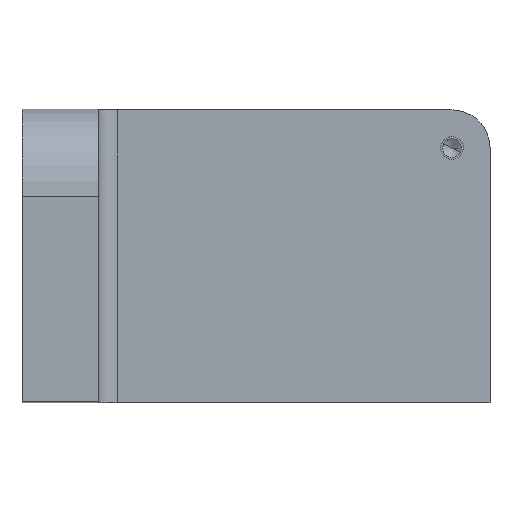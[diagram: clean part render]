
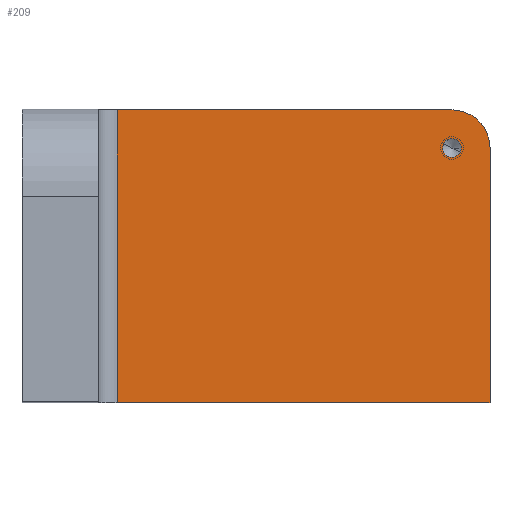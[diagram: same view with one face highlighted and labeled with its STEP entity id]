
A CAD part, top view. The second image highlights one B-rep face of the part: STEP entity #209.
In plain terms, the highlighted planar face has unit normal (0, 0, 1).
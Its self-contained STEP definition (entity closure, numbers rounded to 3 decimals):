
#144=CARTESIAN_POINT('Axis2P3D Location',(0.,0.,20.)) ;
#149=CARTESIAN_POINT('Line Origine',(74.,0.,20.)) ;
#153=CARTESIAN_POINT('Vertex',(25.,0.,20.)) ;
#155=CARTESIAN_POINT('Vertex',(123.,0.,20.)) ;
#158=CARTESIAN_POINT('Line Origine',(123.,33.5,20.)) ;
#162=CARTESIAN_POINT('Vertex',(123.,67.,20.)) ;
#165=CARTESIAN_POINT('Axis2P3D Location',(113.,67.,20.)) ;
#169=CARTESIAN_POINT('Vertex',(113.,77.,20.)) ;
#172=CARTESIAN_POINT('Line Origine',(69.,77.,20.)) ;
#176=CARTESIAN_POINT('Vertex',(25.,77.,20.)) ;
#179=CARTESIAN_POINT('Line Origine',(25.,38.5,20.)) ;
#191=CARTESIAN_POINT('Axis2P3D Location',(113.,67.,20.)) ;
#195=CARTESIAN_POINT('Vertex',(110.842,68.179,20.)) ;
#197=CARTESIAN_POINT('Vertex',(115.158,65.821,20.)) ;
#200=CARTESIAN_POINT('Axis2P3D Location',(113.,67.,20.)) ;
#145=DIRECTION('Axis2P3D Direction',(0.,0.,1.)) ;
#146=DIRECTION('Axis2P3D XDirection',(1.,0.,0.)) ;
#150=DIRECTION('Vector Direction',(1.,0.,0.)) ;
#159=DIRECTION('Vector Direction',(0.,1.,0.)) ;
#166=DIRECTION('Axis2P3D Direction',(0.,0.,1.)) ;
#173=DIRECTION('Vector Direction',(-1.,0.,0.)) ;
#180=DIRECTION('Vector Direction',(0.,-1.,0.)) ;
#192=DIRECTION('Axis2P3D Direction',(0.,0.,1.)) ;
#201=DIRECTION('Axis2P3D Direction',(0.,0.,1.)) ;
#147=AXIS2_PLACEMENT_3D('Plane Axis2P3D',#144,#145,#146) ;
#167=AXIS2_PLACEMENT_3D('Circle Axis2P3D',#165,#166,$) ;
#193=AXIS2_PLACEMENT_3D('Circle Axis2P3D',#191,#192,$) ;
#202=AXIS2_PLACEMENT_3D('Circle Axis2P3D',#200,#201,$) ;
#185=ORIENTED_EDGE('',*,*,#157,.T.) ;
#186=ORIENTED_EDGE('',*,*,#164,.T.) ;
#187=ORIENTED_EDGE('',*,*,#171,.T.) ;
#188=ORIENTED_EDGE('',*,*,#178,.T.) ;
#189=ORIENTED_EDGE('',*,*,#183,.F.) ;
#206=ORIENTED_EDGE('',*,*,#199,.F.) ;
#207=ORIENTED_EDGE('',*,*,#204,.F.) ;
#208=FACE_BOUND('',#205,.T.) ;
#151=VECTOR('Line Direction',#150,1.) ;
#160=VECTOR('Line Direction',#159,1.) ;
#174=VECTOR('Line Direction',#173,1.) ;
#181=VECTOR('Line Direction',#180,1.) ;
#209=ADVANCED_FACE('PartBody',(#190,#208),#148,.T.) ;
#168=CIRCLE('generated circle',#167,10.) ;
#194=CIRCLE('generated circle',#193,2.459) ;
#203=CIRCLE('generated circle',#202,2.459) ;
#157=EDGE_CURVE('',#154,#156,#152,.T.) ;
#164=EDGE_CURVE('',#156,#163,#161,.T.) ;
#171=EDGE_CURVE('',#163,#170,#168,.T.) ;
#178=EDGE_CURVE('',#170,#177,#175,.T.) ;
#183=EDGE_CURVE('',#154,#177,#182,.F.) ;
#199=EDGE_CURVE('',#196,#198,#194,.T.) ;
#204=EDGE_CURVE('',#198,#196,#203,.T.) ;
#184=EDGE_LOOP('',(#185,#186,#187,#188,#189)) ;
#205=EDGE_LOOP('',(#206,#207)) ;
#190=FACE_OUTER_BOUND('',#184,.T.) ;
#152=LINE('Line',#149,#151) ;
#161=LINE('Line',#158,#160) ;
#175=LINE('Line',#172,#174) ;
#182=LINE('Line',#179,#181) ;
#148=PLANE('',#147) ;
#154=VERTEX_POINT('',#153) ;
#156=VERTEX_POINT('',#155) ;
#163=VERTEX_POINT('',#162) ;
#170=VERTEX_POINT('',#169) ;
#177=VERTEX_POINT('',#176) ;
#196=VERTEX_POINT('',#195) ;
#198=VERTEX_POINT('',#197) ;
